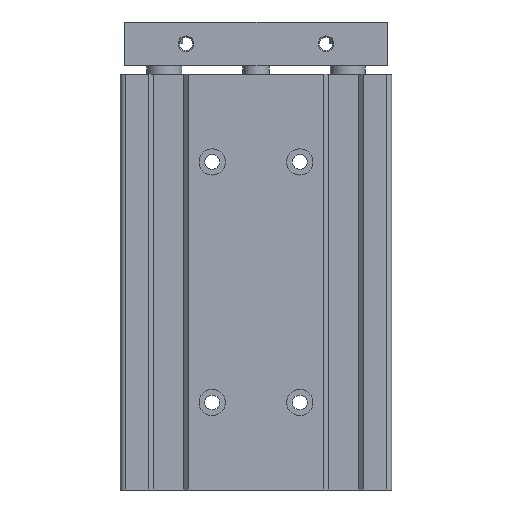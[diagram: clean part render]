
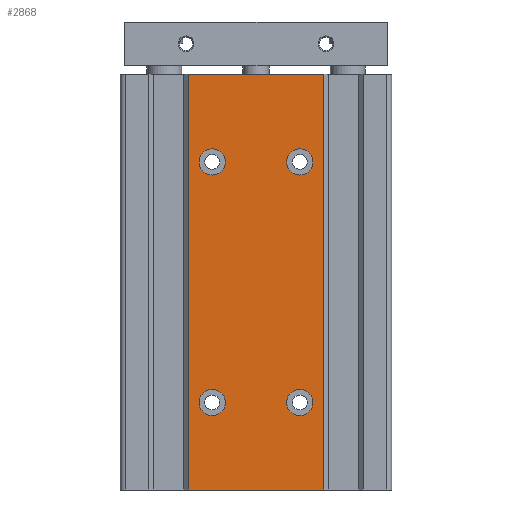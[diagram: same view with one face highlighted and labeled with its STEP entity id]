
A CAD part, left-side view. The second image highlights one B-rep face of the part: STEP entity #2868.
In plain terms, the highlighted planar face has unit normal (-1, 0, 0).
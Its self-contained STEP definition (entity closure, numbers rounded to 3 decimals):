
#869=CARTESIAN_POINT('',(-11.,-15.5,-97.0));
#870=VERTEX_POINT('',#869);
#877=CARTESIAN_POINT('',(-11.,15.5,-97.0));
#878=VERTEX_POINT('',#877);
#879=CARTESIAN_POINT('',(-11.,15.5,-97.0));
#880=DIRECTION('',(0.0,-1.0,0.0));
#881=VECTOR('',#880,31.);
#882=LINE('',#879,#881);
#883=EDGE_CURVE('',#878,#870,#882,.T.);
#1420=CARTESIAN_POINT('',(-11.,-10.0,-74.0));
#1421=VERTEX_POINT('',#1420);
#1422=CARTESIAN_POINT('',(-11.,-10.0,-77.0));
#1423=DIRECTION('',(1.0,0.0,0.0));
#1424=DIRECTION('',(0.0,0.0,-1.0));
#1425=AXIS2_PLACEMENT_3D('',#1422,#1423,#1424);
#1426=CIRCLE('',#1425,3.);
#1427=EDGE_CURVE('',#1421,#1421,#1426,.T.);
#1468=CARTESIAN_POINT('',(-11.,-10.0,-19.0));
#1469=VERTEX_POINT('',#1468);
#1470=CARTESIAN_POINT('',(-11.,-10.0,-22.0));
#1471=DIRECTION('',(1.0,0.0,0.0));
#1472=DIRECTION('',(0.0,0.0,-1.0));
#1473=AXIS2_PLACEMENT_3D('',#1470,#1471,#1472);
#1474=CIRCLE('',#1473,3.0);
#1475=EDGE_CURVE('',#1469,#1469,#1474,.T.);
#1516=CARTESIAN_POINT('',(-11.,10.0,-19.0));
#1517=VERTEX_POINT('',#1516);
#1518=CARTESIAN_POINT('',(-11.,10.0,-22.0));
#1519=DIRECTION('',(1.0,0.0,0.0));
#1520=DIRECTION('',(0.0,0.0,-1.0));
#1521=AXIS2_PLACEMENT_3D('',#1518,#1519,#1520);
#1522=CIRCLE('',#1521,3.);
#1523=EDGE_CURVE('',#1517,#1517,#1522,.T.);
#1564=CARTESIAN_POINT('',(-11.,10.0,-74.0));
#1565=VERTEX_POINT('',#1564);
#1566=CARTESIAN_POINT('',(-11.,10.0,-77.0));
#1567=DIRECTION('',(1.0,0.0,0.0));
#1568=DIRECTION('',(0.0,0.0,-1.0));
#1569=AXIS2_PLACEMENT_3D('',#1566,#1567,#1568);
#1570=CIRCLE('',#1569,3.);
#1571=EDGE_CURVE('',#1565,#1565,#1570,.T.);
#2552=CARTESIAN_POINT('',(-11.,-15.5,-2.0));
#2553=VERTEX_POINT('',#2552);
#2560=CARTESIAN_POINT('',(-11.,-15.5,-97.0));
#2561=DIRECTION('',(0.0,0.0,1.0));
#2562=VECTOR('',#2561,95.0);
#2563=LINE('',#2560,#2562);
#2564=EDGE_CURVE('',#870,#2553,#2563,.T.);
#2654=CARTESIAN_POINT('',(-11.,15.5,-2.0));
#2655=VERTEX_POINT('',#2654);
#2656=CARTESIAN_POINT('',(-11.,15.5,-2.0));
#2657=DIRECTION('',(0.0,0.0,-1.0));
#2658=VECTOR('',#2657,95.0);
#2659=LINE('',#2656,#2658);
#2660=EDGE_CURVE('',#2655,#878,#2659,.T.);
#2840=CARTESIAN_POINT('',(-11.,29.8,-2.0));
#2841=DIRECTION('',(-1.0,0.0,0.0));
#2842=DIRECTION('',(0.0,0.0,1.0));
#2843=AXIS2_PLACEMENT_3D('',#2840,#2841,#2842);
#2844=PLANE('',#2843);
#2845=ORIENTED_EDGE('',*,*,#2564,.T.);
#2846=CARTESIAN_POINT('',(-11.,-15.5,-2.0));
#2847=DIRECTION('',(0.0,1.0,0.0));
#2848=VECTOR('',#2847,31.);
#2849=LINE('',#2846,#2848);
#2850=EDGE_CURVE('',#2553,#2655,#2849,.T.);
#2851=ORIENTED_EDGE('',*,*,#2850,.T.);
#2852=ORIENTED_EDGE('',*,*,#2660,.T.);
#2853=ORIENTED_EDGE('',*,*,#883,.T.);
#2854=EDGE_LOOP('',(#2845,#2851,#2852,#2853));
#2855=FACE_OUTER_BOUND('',#2854,.T.);
#2856=ORIENTED_EDGE('',*,*,#1427,.T.);
#2857=EDGE_LOOP('',(#2856));
#2858=FACE_BOUND('',#2857,.T.);
#2859=ORIENTED_EDGE('',*,*,#1475,.T.);
#2860=EDGE_LOOP('',(#2859));
#2861=FACE_BOUND('',#2860,.T.);
#2862=ORIENTED_EDGE('',*,*,#1523,.T.);
#2863=EDGE_LOOP('',(#2862));
#2864=FACE_BOUND('',#2863,.T.);
#2865=ORIENTED_EDGE('',*,*,#1571,.T.);
#2866=EDGE_LOOP('',(#2865));
#2867=FACE_BOUND('',#2866,.T.);
#2868=ADVANCED_FACE('',(#2855,#2858,#2861,#2864,#2867),#2844,.T.);
